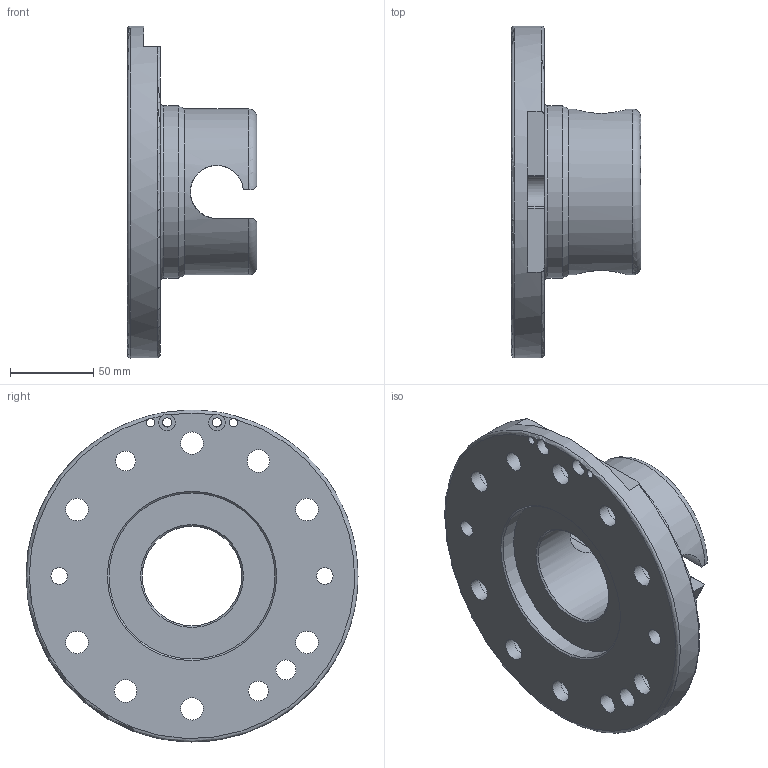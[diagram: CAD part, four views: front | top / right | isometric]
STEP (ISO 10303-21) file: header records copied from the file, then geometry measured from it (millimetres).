
FILE_DESCRIPTION(/* description */ (''),/* implementation_level */ '2;1');
FILE_NAME(/* name */ '\\dc01\daten\CAD\Standard\Daten\3D-Datenbank\SWS\4 - 3D-CAD-Daten SWS 050-160\SWS200\step-Daten\G-SWS200-2UEN-M12.stp',/* time_stamp */ '2015-07-16T09:54:56+02:00',/* author */ ('ysplieth'),/* organization */ (''),/* preprocessor_version */ 'ST-DEVELOPER v15.2',/* originating_system */ 'Autodesk Inventor 2014',/* authorisation */ '');
FILE_SCHEMA (('CONFIG_CONTROL_DESIGN'));
Length unit declared in the file: millimetre
Products named in the file (1): G-SWS200-4.2
Bounding box: 78 x 200 x 200 mm (x, y, z)
Volume: 717349.5 mm3; surface area: 110266.4 mm2
Topology: 1 solids, 1 shells, 74 faces, 197 edges, 131 vertices
Faces by surface type: cylinder 36, plane 28, torus 5, cone 5
Full cylindrical faces by diameter (mm): 5 x2, 5.5 x2, 10 x4, 12 x2, 12.1 x1, 13.5 x8, 20 x8, 60 x1, 100 x2, 104 x1, 200 x1
Entity records: 2416 total; most frequent: CARTESIAN_POINT 676, DIRECTION 362, ORIENTED_EDGE 292, AXIS2_PLACEMENT_3D 163, EDGE_LOOP 153, EDGE_CURVE 146, VERTEX_POINT 117, CIRCLE 84
